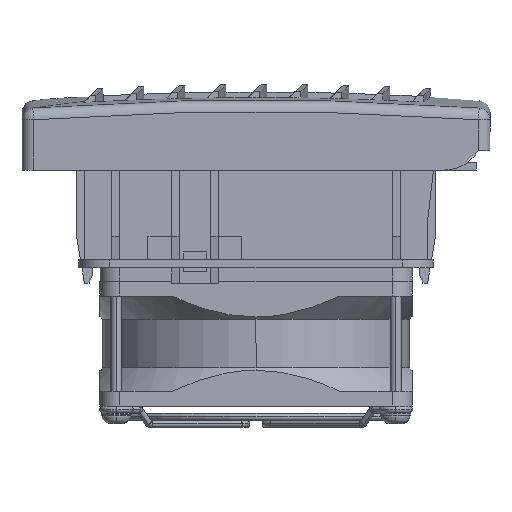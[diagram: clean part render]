
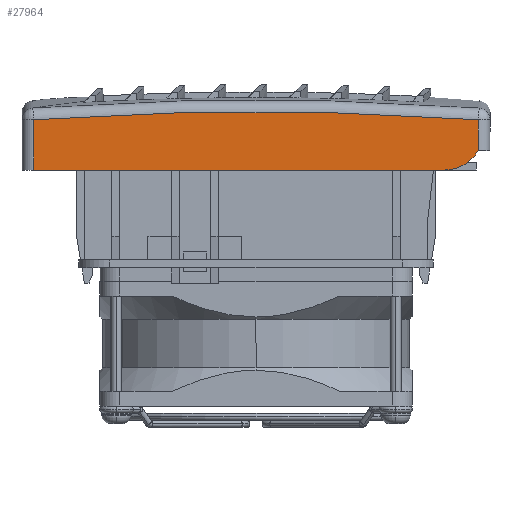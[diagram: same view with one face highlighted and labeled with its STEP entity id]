
A CAD part, left-side view. The second image highlights one B-rep face of the part: STEP entity #27964.
In plain terms, the highlighted planar face has unit normal (-1, 0, 0).
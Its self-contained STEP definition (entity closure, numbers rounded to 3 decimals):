
#305 = CARTESIAN_POINT ( 'NONE',  ( -14., 14., 0. ) ) ;
#1950 = EDGE_CURVE ( 'NONE', #43775, #37978, #10459, .T. ) ;
#4506 = VECTOR ( 'NONE', #20863, 1000. ) ;
#5334 = AXIS2_PLACEMENT_3D ( 'NONE', #26780, #26718, #26632 ) ;
#5468 = EDGE_CURVE ( 'NONE', #31516, #23117, #39537, .T. ) ;
#5758 = CARTESIAN_POINT ( 'NONE',  ( -14., -94.34, 0. ) ) ;
#6192 = DIRECTION ( 'NONE',  ( 0., 0., 1. ) ) ;
#9345 = CARTESIAN_POINT ( 'NONE',  ( -14., 11., 0. ) ) ;
#10236 = CARTESIAN_POINT ( 'NONE',  ( -14., 14., 20. ) ) ;
#10459 = CIRCLE ( 'NONE', #24624, 794.959 ) ;
#12479 = CARTESIAN_POINT ( 'NONE',  ( -14., -103., 12.913 ) ) ;
#13442 = EDGE_CURVE ( 'NONE', #39616, #31516, #30762, .T. ) ;
#13575 = EDGE_LOOP ( 'NONE', ( #35370, #33360, #23654, #18618, #18549 ) ) ;
#13670 = DIRECTION ( 'NONE',  ( 0., 1., 0. ) ) ;
#15713 = EDGE_CURVE ( 'NONE', #23117, #43775, #35755, .T. ) ;
#16558 = EDGE_CURVE ( 'NONE', #37978, #39616, #41099, .T. ) ;
#17084 = AXIS2_PLACEMENT_3D ( 'NONE', #10236, #34196, #13670 ) ;
#18549 = ORIENTED_EDGE ( 'NONE', *, *, #16558, .T. ) ;
#18618 = ORIENTED_EDGE ( 'NONE', *, *, #1950, .T. ) ;
#20863 = DIRECTION ( 'NONE',  ( 0., -1., 0. ) ) ;
#23117 = VERTEX_POINT ( 'NONE', #31031 ) ;
#23654 = ORIENTED_EDGE ( 'NONE', *, *, #15713, .T. ) ;
#24624 = AXIS2_PLACEMENT_3D ( 'NONE', #40326, #41387, #39740 ) ;
#26632 = DIRECTION ( 'NONE',  ( 0., 1., 0. ) ) ;
#26701 = VECTOR ( 'NONE', #6192, 1000. ) ;
#26718 = DIRECTION ( 'NONE',  ( -1., 0., 0. ) ) ;
#26780 = CARTESIAN_POINT ( 'NONE',  ( -14., -94.34, 10. ) ) ;
#27964 = ADVANCED_FACE ( 'NONE', ( #36610 ), #34053, .F. ) ;
#29586 = DIRECTION ( 'NONE',  ( 0., 0., -1. ) ) ;
#29848 = CARTESIAN_POINT ( 'NONE',  ( -14., 11., 12.913 ) ) ;
#30762 = LINE ( 'NONE', #305, #4506 ) ;
#31031 = CARTESIAN_POINT ( 'NONE',  ( -14., -103., 5. ) ) ;
#31516 = VERTEX_POINT ( 'NONE', #5758 ) ;
#32078 = VECTOR ( 'NONE', #29586, 1000. ) ;
#33360 = ORIENTED_EDGE ( 'NONE', *, *, #5468, .T. ) ;
#34053 = PLANE ( 'NONE',  #17084 ) ;
#34196 = DIRECTION ( 'NONE',  ( 1., 0., 0. ) ) ;
#35370 = ORIENTED_EDGE ( 'NONE', *, *, #13442, .T. ) ;
#35755 = LINE ( 'NONE', #36946, #26701 ) ;
#36610 = FACE_OUTER_BOUND ( 'NONE', #13575, .T. ) ;
#36946 = CARTESIAN_POINT ( 'NONE',  ( -14., -103., 20. ) ) ;
#37978 = VERTEX_POINT ( 'NONE', #29848 ) ;
#39537 = CIRCLE ( 'NONE', #5334, 10. ) ;
#39616 = VERTEX_POINT ( 'NONE', #9345 ) ;
#39740 = DIRECTION ( 'NONE',  ( 0., 1., 0. ) ) ;
#40326 = CARTESIAN_POINT ( 'NONE',  ( -14., -46., -780. ) ) ;
#41099 = LINE ( 'NONE', #43089, #32078 ) ;
#41387 = DIRECTION ( 'NONE',  ( -1., 0., 0. ) ) ;
#43089 = CARTESIAN_POINT ( 'NONE',  ( -14., 11., 20. ) ) ;
#43775 = VERTEX_POINT ( 'NONE', #12479 ) ;
